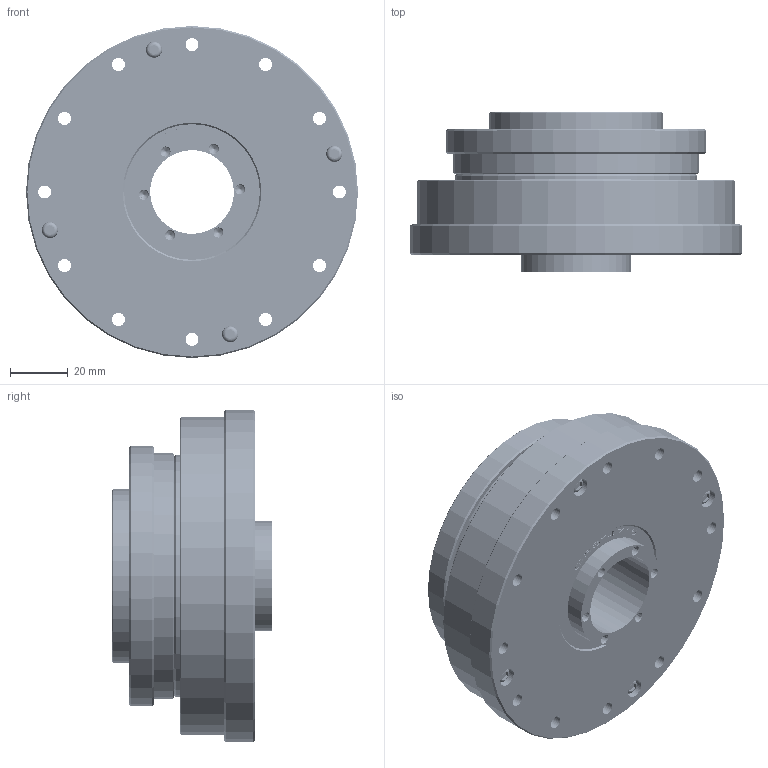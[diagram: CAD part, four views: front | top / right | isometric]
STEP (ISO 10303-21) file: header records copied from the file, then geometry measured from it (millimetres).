
FILE_DESCRIPTION(/* description */ (''),/* implementation_level */ '2;1');
FILE_NAME(/* name */ 'XBK25成品图.prt.stp',/* time_stamp */ '2022-05-21T13:25:43+08:00',/* author */ (''),/* organization */ (''),/* preprocessor_version */ 'ST-DEVELOPER v16',/* originating_system */ 'SIEMENS PLM Software NX 10.0',/* authorisation */ '');
FILE_SCHEMA (('CONFIG_CONTROL_DESIGN'));
Products named in the file (16): M2.5X6; XBK25-4-1-1销子; 25-保持架; 84X94X5骨架油封; XBK25-4-2外圈; M3X18; YM3X12; G38475; XBK25-6上盖板; XBK25-3-1凸轮; XBK25-1钢轮; 深沟球轴承6808Z; XBK25-2柔轮; XBK25-4-1内芯_MODEL; 25-柔性轴承_MODEL; XBK25成品图
Assembly tree (23 placements, depth 3):
  XBK25成品图
    XBK25-2柔轮
    深沟球轴承6808Z  x2
    XBK25-1钢轮
    XBK25-3-1凸轮
    25-柔性轴承_MODEL
      25-保持架
    XBK25-6上盖板
    G38475  x2
    YM3X12  x4
    M3X18  x4
    XBK25-4-2外圈
    XBK25-4-1内芯_MODEL
      XBK25-4-1-1销子
      M2.5X6
    84X94X5骨架油封
Bounding box: 115 x 55.5 x 115 mm (x, y, z)
Volume: 263762.7 mm3; surface area: 185590 mm2
Topology: 96 solids, 96 shells, 1583 faces, 3965 edges, 2572 vertices
Faces by surface type: plane 541, cylinder 452, cone 267, bspline 123, extrusion 110, sphere 69, torus 21
Full cylindrical faces by diameter (mm): 2.5 x4, 3 x120, 3.5 x16, 4.5 x68, 4.7 x1, 5 x1, 5.6 x4, 5.68 x4, 6 x8, 6.5 x4, 29 x2, 29.5 x1, 37.7 x2, 38 x4, 39.7 x2, 40 x4, 41 x2, 42 x2, 43 x4, 43.7 x1, 44 x2, 45.212 x1, 46.5 x1, 47 x4, 47.3 x1, 48.412 x2, 49.5 x1, 49.8 x4, 52 x4, 53 x1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
Entity records: 204215 total; most frequent: CARTESIAN_POINT 177991, ORIENTED_EDGE 4554, DIRECTION 4485, EDGE_CURVE 2277, AXIS2_PLACEMENT_3D 1931, EDGE_LOOP 1855, VERTEX_POINT 1754, FACE_BOUND 1278
